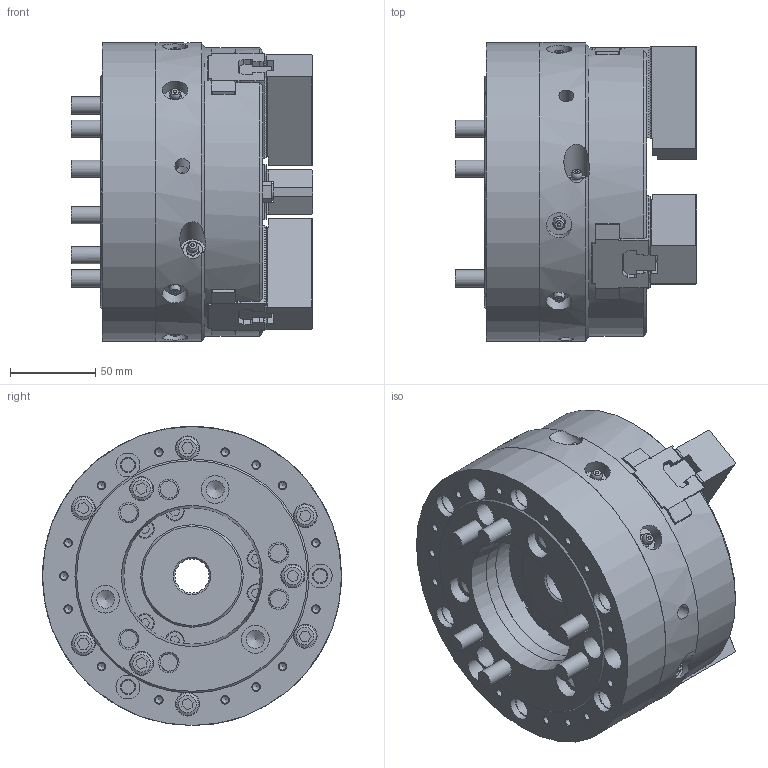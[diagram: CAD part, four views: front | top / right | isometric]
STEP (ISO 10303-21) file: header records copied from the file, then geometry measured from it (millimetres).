
FILE_DESCRIPTION (( 'STEP AP214' ), '1' );
FILE_NAME ('HOH-206_UC.STEP', '2020-03-05T02:18:29', ( '' ), ( '' ), 'SwSTEP 2.0', 'SolidWorks 2017', '' );
FILE_SCHEMA (( 'AUTOMOTIVE_DESIGN' ));
Length unit declared in the file: millimetre
Products named in the file (18): 61P447483_TNUT; B傾僫僣僉 M10亊250_~25; 61P319805_SOFT JAW; Part1^61P214934_HOH-206_ASSY; HOH-206_UC; 61P447483_TNUT_蹬怮椔; Part1^61P214934_HOH-206_ASSY_蹬怮椔; 61P319805_SOFT JAW_蹬怮椔; B傾僫僣僉 M10亊250_~25_棉太倌TI佱UA
Assembly tree (13 placements, depth 2):
  61P447483_TNUT
  B傾僫僣僉 M10亊250_~25
  61P319805_SOFT JAW
  61P447483_TNUT
  61P447483_TNUT
Bounding box: 141.2 x 175 x 175 mm (x, y, z)
Volume: 2028008 mm3; surface area: 248292.5 mm2
Topology: 13 solids, 36 shells, 2715 faces, 7555 edges, 4987 vertices
Faces by surface type: plane 2230, cylinder 307, cone 139, torus 21, sphere 18
Full cylindrical faces by diameter (mm): 2 x9, 4.2 x15, 8 x9, 8.5 x6, 8.8 x3, 9 x9, 10 x15, 10.072 x3, 10.176 x3, 11 x6, 11.5 x3, 12 x9, 13 x9, 14 x12, 15 x9, 16 x12, 16.28 x3, 17 x12, 20 x1, 45 x1, 46.893 x1, 79.8 x1, 81.229 x1, 169 x1, 171 x1, 175 x2
Entity records: 66347 total; most frequent: CARTESIAN_POINT 14057, ORIENTED_EDGE 10832, DIRECTION 10263, EDGE_CURVE 5416, LINE 4163, VECTOR 4163, VERTEX_POINT 3674, AXIS2_PLACEMENT_3D 3050
